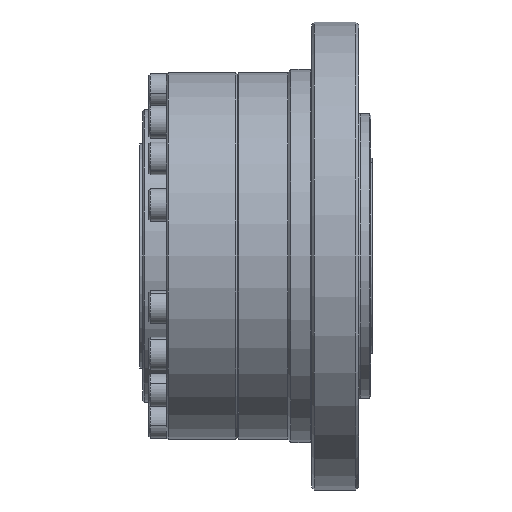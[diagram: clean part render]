
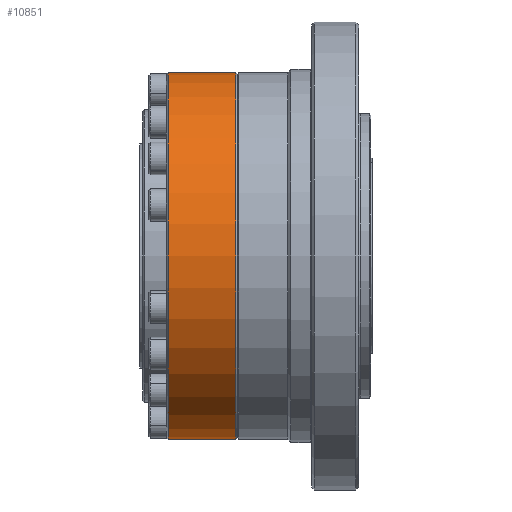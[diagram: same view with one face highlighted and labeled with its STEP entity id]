
A CAD part, front view. The second image highlights one B-rep face of the part: STEP entity #10851.
In plain terms, the highlighted cylindrical face has radius 31 mm (diameter 62 mm), a partial arc.
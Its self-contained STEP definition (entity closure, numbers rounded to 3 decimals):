
#115 = DIRECTION ( 'NONE',  ( -1., 0., 0. ) ) ;
#473 = DIRECTION ( 'NONE',  ( 0., 0., 1. ) ) ;
#697 = VERTEX_POINT ( 'NONE', #7136 ) ;
#708 = CARTESIAN_POINT ( 'NONE',  ( -25.725, 5.982, 110. ) ) ;
#959 = ORIENTED_EDGE ( 'NONE', *, *, #8363, .T. ) ;
#2142 = DIRECTION ( 'NONE',  ( -1., 0., 0. ) ) ;
#2301 = VECTOR ( 'NONE', #11716, 1000. ) ;
#2399 = CIRCLE ( 'NONE', #4398, 31. ) ;
#3326 = DIRECTION ( 'NONE',  ( -1., 0., 0. ) ) ;
#4398 = AXIS2_PLACEMENT_3D ( 'NONE', #8599, #115, #10013 ) ;
#5415 = EDGE_LOOP ( 'NONE', ( #8606, #12184, #959, #9290 ) ) ;
#5855 = EDGE_CURVE ( 'NONE', #17560, #12938, #13630, .T. ) ;
#6440 = VERTEX_POINT ( 'NONE', #13974 ) ;
#6637 = DIRECTION ( 'NONE',  ( 1., 0., 0. ) ) ;
#7136 = CARTESIAN_POINT ( 'NONE',  ( -37.425, 5.982, 110. ) ) ;
#7340 = AXIS2_PLACEMENT_3D ( 'NONE', #10385, #3326, #473 ) ;
#8363 = EDGE_CURVE ( 'NONE', #6440, #697, #13391, .T. ) ;
#8599 = CARTESIAN_POINT ( 'NONE',  ( -26.025, 5.982, 79. ) ) ;
#8606 = ORIENTED_EDGE ( 'NONE', *, *, #5855, .F. ) ;
#9158 = VECTOR ( 'NONE', #2142, 1000. ) ;
#9290 = ORIENTED_EDGE ( 'NONE', *, *, #11043, .T. ) ;
#10013 = DIRECTION ( 'NONE',  ( 0., 0., -1. ) ) ;
#10385 = CARTESIAN_POINT ( 'NONE',  ( -25.725, 5.982, 79. ) ) ;
#10756 = CARTESIAN_POINT ( 'NONE',  ( -37.425, 5.982, 48. ) ) ;
#10851 = ADVANCED_FACE ( 'NONE', ( #13979 ), #13554, .T. ) ;
#11043 = EDGE_CURVE ( 'NONE', #697, #12938, #11329, .T. ) ;
#11320 = CARTESIAN_POINT ( 'NONE',  ( -26.025, 5.982, 48. ) ) ;
#11329 = CIRCLE ( 'NONE', #13967, 31. ) ;
#11716 = DIRECTION ( 'NONE',  ( -1., 0., 0. ) ) ;
#12184 = ORIENTED_EDGE ( 'NONE', *, *, #16533, .T. ) ;
#12938 = VERTEX_POINT ( 'NONE', #10756 ) ;
#13391 = LINE ( 'NONE', #708, #9158 ) ;
#13554 = CYLINDRICAL_SURFACE ( 'NONE', #7340, 31. ) ;
#13630 = LINE ( 'NONE', #14558, #2301 ) ;
#13967 = AXIS2_PLACEMENT_3D ( 'NONE', #15138, #6637, #16587 ) ;
#13974 = CARTESIAN_POINT ( 'NONE',  ( -26.025, 5.982, 110. ) ) ;
#13979 = FACE_OUTER_BOUND ( 'NONE', #5415, .T. ) ;
#14558 = CARTESIAN_POINT ( 'NONE',  ( -25.725, 5.982, 48. ) ) ;
#15138 = CARTESIAN_POINT ( 'NONE',  ( -37.425, 5.982, 79. ) ) ;
#16533 = EDGE_CURVE ( 'NONE', #17560, #6440, #2399, .T. ) ;
#16587 = DIRECTION ( 'NONE',  ( 0., 0., 1. ) ) ;
#17560 = VERTEX_POINT ( 'NONE', #11320 ) ;
